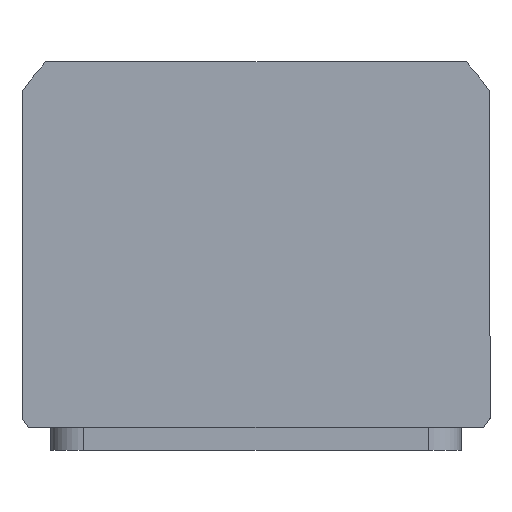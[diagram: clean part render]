
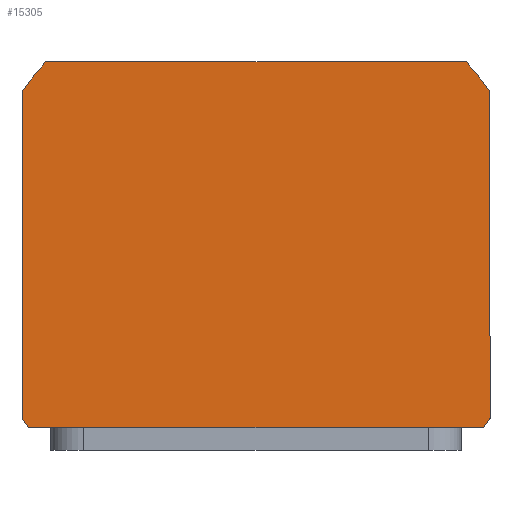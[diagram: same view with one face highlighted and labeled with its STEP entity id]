
A CAD part, top view. The second image highlights one B-rep face of the part: STEP entity #15305.
In plain terms, the highlighted planar face has unit normal (0, 0, 1) as drawn and (0, 0, -1) by its records, which use the part's own axes.
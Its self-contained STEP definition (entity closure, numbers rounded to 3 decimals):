
#146 = EDGE_CURVE ( 'NONE', #10427, #5591, #14513, .T. ) ;
#294 = CARTESIAN_POINT ( 'NONE',  ( 57., 42.273, 0. ) ) ;
#327 = CARTESIAN_POINT ( 'NONE',  ( 0., 2.508, 0. ) ) ;
#479 = ORIENTED_EDGE ( 'NONE', *, *, #16469, .F. ) ;
#952 = DIRECTION ( 'NONE',  ( 1., 0., 0. ) ) ;
#999 = CARTESIAN_POINT ( 'NONE',  ( 0., 2.508, 0. ) ) ;
#1755 = DIRECTION ( 'NONE',  ( 1., 0., 0. ) ) ;
#1820 = CIRCLE ( 'NONE', #12640, 69.5 ) ;
#2006 = DIRECTION ( 'NONE',  ( 0., 0., 1. ) ) ;
#2190 = CIRCLE ( 'NONE', #9220, 69.5 ) ;
#2369 = LINE ( 'NONE', #4014, #16488 ) ;
#2430 = DIRECTION ( 'NONE',  ( 1., 0., 0. ) ) ;
#2518 = EDGE_CURVE ( 'NONE', #15951, #7063, #12802, .T. ) ;
#2877 = CARTESIAN_POINT ( 'NONE',  ( 0., 2.508, 0. ) ) ;
#3774 = CARTESIAN_POINT ( 'NONE',  ( -57., 44.5, 0. ) ) ;
#3917 = LINE ( 'NONE', #12305, #14289 ) ;
#4014 = CARTESIAN_POINT ( 'NONE',  ( -57., 44.5, 0. ) ) ;
#4062 = CIRCLE ( 'NONE', #5101, 69.5 ) ;
#4314 = DIRECTION ( 'NONE',  ( 1., 0., 0. ) ) ;
#4325 = DIRECTION ( 'NONE',  ( 0., -1., 0. ) ) ;
#4421 = VECTOR ( 'NONE', #10243, 1000. ) ;
#5101 = AXIS2_PLACEMENT_3D ( 'NONE', #327, #10237, #1755 ) ;
#5315 = CARTESIAN_POINT ( 'NONE',  ( -57., -37.256, 0. ) ) ;
#5349 = DIRECTION ( 'NONE',  ( 1., 0., 0. ) ) ;
#5591 = VERTEX_POINT ( 'NONE', #5315 ) ;
#5618 = EDGE_CURVE ( 'NONE', #14994, #13329, #2369, .T. ) ;
#6440 = CARTESIAN_POINT ( 'NONE',  ( -51.19, -44.5, 0. ) ) ;
#7063 = VERTEX_POINT ( 'NONE', #294 ) ;
#7100 = ORIENTED_EDGE ( 'NONE', *, *, #8548, .F. ) ;
#7283 = CARTESIAN_POINT ( 'NONE',  ( 57., -37.256, 0. ) ) ;
#7419 = CARTESIAN_POINT ( 'NONE',  ( -57., 42.273, 0. ) ) ;
#8018 = CARTESIAN_POINT ( 'NONE',  ( 0., 0., 0. ) ) ;
#8473 = VERTEX_POINT ( 'NONE', #10111 ) ;
#8548 = EDGE_CURVE ( 'NONE', #5591, #11456, #4062, .T. ) ;
#8630 = CARTESIAN_POINT ( 'NONE',  ( -55.38, 44.5, 0. ) ) ;
#8812 = CARTESIAN_POINT ( 'NONE',  ( 57., 44.5, 0. ) ) ;
#9159 = EDGE_CURVE ( 'NONE', #13329, #10427, #1820, .T. ) ;
#9220 = AXIS2_PLACEMENT_3D ( 'NONE', #10491, #2006, #11904 ) ;
#9428 = DIRECTION ( 'NONE',  ( 0., 0., 1. ) ) ;
#9775 = CIRCLE ( 'NONE', #10055, 69.5 ) ;
#10055 = AXIS2_PLACEMENT_3D ( 'NONE', #999, #10914, #2430 ) ;
#10111 = CARTESIAN_POINT ( 'NONE',  ( 51.19, -44.5, 0. ) ) ;
#10237 = DIRECTION ( 'NONE',  ( 0., 0., 1. ) ) ;
#10243 = DIRECTION ( 'NONE',  ( 0., 1., 0. ) ) ;
#10427 = VERTEX_POINT ( 'NONE', #7419 ) ;
#10491 = CARTESIAN_POINT ( 'NONE',  ( 0., 2.508, 0. ) ) ;
#10622 = ORIENTED_EDGE ( 'NONE', *, *, #13635, .F. ) ;
#10808 = EDGE_CURVE ( 'NONE', #7063, #14994, #9775, .T. ) ;
#10914 = DIRECTION ( 'NONE',  ( 0., 0., 1. ) ) ;
#11456 = VERTEX_POINT ( 'NONE', #6440 ) ;
#11572 = ORIENTED_EDGE ( 'NONE', *, *, #9159, .F. ) ;
#11904 = DIRECTION ( 'NONE',  ( 1., 0., 0. ) ) ;
#12305 = CARTESIAN_POINT ( 'NONE',  ( -57., -44.5, 0. ) ) ;
#12552 = FACE_OUTER_BOUND ( 'NONE', #17613, .T. ) ;
#12640 = AXIS2_PLACEMENT_3D ( 'NONE', #2877, #12753, #4314 ) ;
#12753 = DIRECTION ( 'NONE',  ( 0., 0., 1. ) ) ;
#12802 = LINE ( 'NONE', #8812, #4421 ) ;
#13041 = ORIENTED_EDGE ( 'NONE', *, *, #5618, .F. ) ;
#13329 = VERTEX_POINT ( 'NONE', #8630 ) ;
#13635 = EDGE_CURVE ( 'NONE', #8473, #15951, #2190, .T. ) ;
#13776 = CARTESIAN_POINT ( 'NONE',  ( 55.38, 44.5, 0. ) ) ;
#13879 = DIRECTION ( 'NONE',  ( -1., 0., 0. ) ) ;
#14077 = VECTOR ( 'NONE', #4325, 1000. ) ;
#14289 = VECTOR ( 'NONE', #5349, 1000. ) ;
#14431 = ORIENTED_EDGE ( 'NONE', *, *, #146, .F. ) ;
#14513 = LINE ( 'NONE', #3774, #14077 ) ;
#14980 = ORIENTED_EDGE ( 'NONE', *, *, #2518, .F. ) ;
#14994 = VERTEX_POINT ( 'NONE', #13776 ) ;
#15305 = ADVANCED_FACE ( 'NONE', ( #12552 ), #16434, .F. ) ;
#15620 = ORIENTED_EDGE ( 'NONE', *, *, #10808, .F. ) ;
#15951 = VERTEX_POINT ( 'NONE', #7283 ) ;
#16434 = PLANE ( 'NONE',  #16643 ) ;
#16469 = EDGE_CURVE ( 'NONE', #11456, #8473, #3917, .T. ) ;
#16488 = VECTOR ( 'NONE', #13879, 1000. ) ;
#16643 = AXIS2_PLACEMENT_3D ( 'NONE', #8018, #9428, #952 ) ;
#17613 = EDGE_LOOP ( 'NONE', ( #15620, #14980, #10622, #479, #7100, #14431, #11572, #13041 ) ) ;
